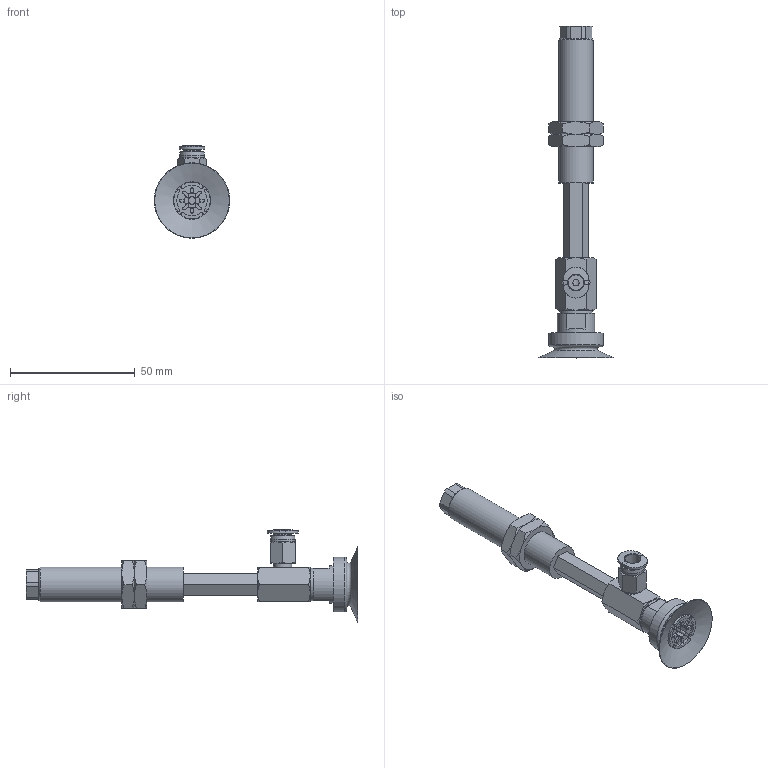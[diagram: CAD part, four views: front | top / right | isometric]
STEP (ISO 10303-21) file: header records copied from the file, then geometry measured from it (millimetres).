
FILE_DESCRIPTION(('STEP AP203'),'1');
FILE_NAME('-O.stp','2025-03-13T08:33:44',(' '),(' '),'Spatial InterOp 3D',' ',' ');
FILE_SCHEMA(('CONFIG_CONTROL_DESIGN'));
Length unit declared in the file: millimetre
Products named in the file (7): BNABPAYH-30-30-※-O; CONNECTOR-30-30-PA; Nut-25-S; NAPAYH-30-30--F; NAPAYH-30-30--M; BPAG-30-※; PC-C_06-M5
Assembly tree (7 placements, depth 2):
  BNABPAYH-30-30-※-O
    CONNECTOR-30-30-PA
    Nut-25-S  x2
    NAPAYH-30-30--F
    NAPAYH-30-30--M
    BPAG-30-※
    PC-C_06-M5
Bounding box: 30.3 x 133.2 x 37.13 mm (x, y, z)
Volume: 19949.4 mm3; surface area: 15964.6 mm2
Topology: 6 solids, 9 shells, 259 faces, 586 edges, 367 vertices
Faces by surface type: plane 116, cone 67, cylinder 65, torus 4, bspline 4, revolution 3
Full cylindrical faces by diameter (mm): 3 x2, 4 x2, 4.134 x2, 4.6 x1, 4.917 x1, 5 x2, 6 x1, 7 x1, 7.4 x1, 8.2 x1, 10 x1, 12.917 x2, 13 x1, 14 x1, 15 x1, 22 x1
Entity records: 7280 total; most frequent: CARTESIAN_POINT 1814, DIRECTION 1085, ORIENTED_EDGE 982, EDGE_CURVE 493, AXIS2_PLACEMENT_3D 434, VERTEX_POINT 335, EDGE_LOOP 312, LINE 214
